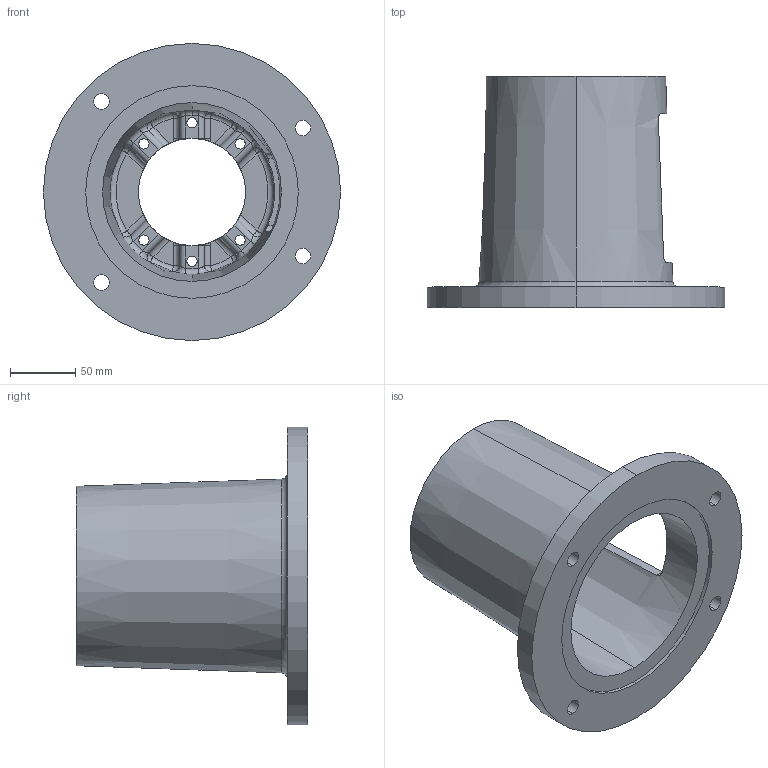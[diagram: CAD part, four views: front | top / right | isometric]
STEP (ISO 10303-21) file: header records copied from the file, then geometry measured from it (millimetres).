
FILE_DESCRIPTION (( 'STEP AP203' ), '1' );
FILE_NAME ('E700702A.STEP', '2014-11-04T13:21:26', ( '' ), ( '' ), 'SwSTEP 2.0', 'SolidWorks 2014', '' );
FILE_SCHEMA (( 'CONFIG_CONTROL_DESIGN' ));
Length unit declared in the file: inch
Products named in the file (1): E700702A
Bounding box: 228.6 x 177.8 x 228.6 mm (x, y, z)
Volume: 862430.7 mm3; surface area: 216068.9 mm2
Topology: 1 solids, 1 shells, 153 faces, 388 edges, 227 vertices
Faces by surface type: cylinder 58, plane 32, bspline 24, torus 23, sphere 12, cone 4
Entity records: 6533 total; most frequent: CARTESIAN_POINT 2915, ORIENTED_EDGE 752, DIRECTION 742, EDGE_CURVE 376, AXIS2_PLACEMENT_3D 320, VERTEX_POINT 227, CIRCLE 190, EDGE_LOOP 179
